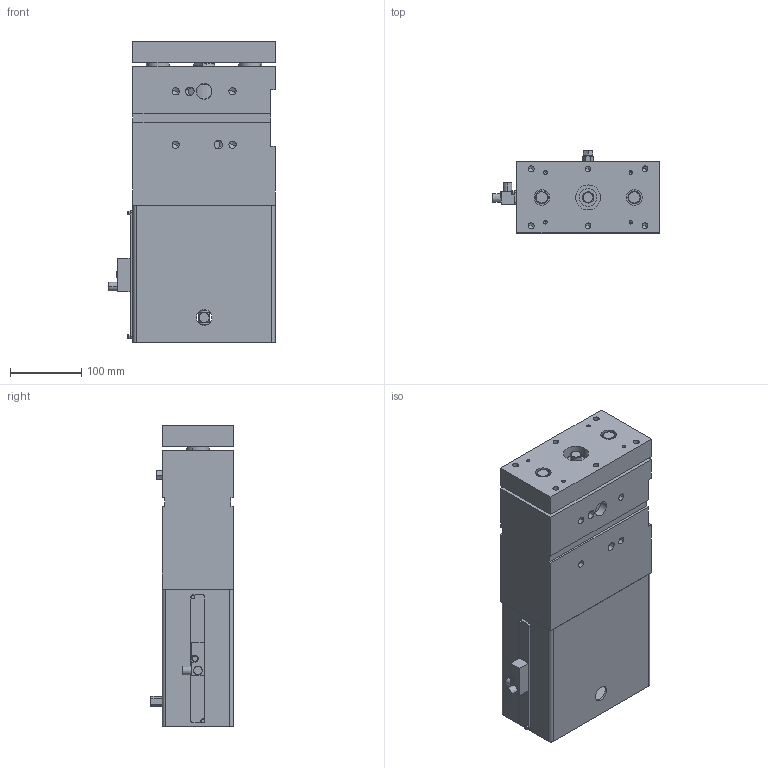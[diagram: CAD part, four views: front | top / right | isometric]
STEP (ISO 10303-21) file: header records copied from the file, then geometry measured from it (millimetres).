
FILE_DESCRIPTION(('CATIA V5 STEP Exchange'),'2;1');
FILE_NAME('C:\Users\huberm\Desktop\MZVD\MZVD_50_160_PL_T12_TUENKERS.stp','2016-10-31T08:34:35+00:00',('none'),('none'),'CATIA Version 5 Release 19 SP 9 (IN-10)','CATIA V5 STEP AP214','none');
FILE_SCHEMA(('AUTOMOTIVE_DESIGN { 1 0 10303 214 1 1 1 1 }'));
Length unit declared in the file: millimetre
Products named in the file (1): MZVD_50_160_PL_T12_TUENKERS
Bounding box: 234 x 116.5 x 423 mm (x, y, z)
Volume: 5279914.4 mm3; surface area: 657409.6 mm2
Topology: 1 solids, 15 shells, 531 faces, 1266 edges, 756 vertices
Faces by surface type: cylinder 195, plane 154, cone 154, torus 24, sphere 4
Entity records: 18352 total; most frequent: CARTESIAN_POINT 3677, ORIENTED_EDGE 2396, DIRECTION 1791, EDGE_CURVE 1198, AXIS2_PLACEMENT_3D 899, VERTEX_POINT 756, EDGE_LOOP 618, PRESENTATION_STYLE_ASSIGNMENT 532
